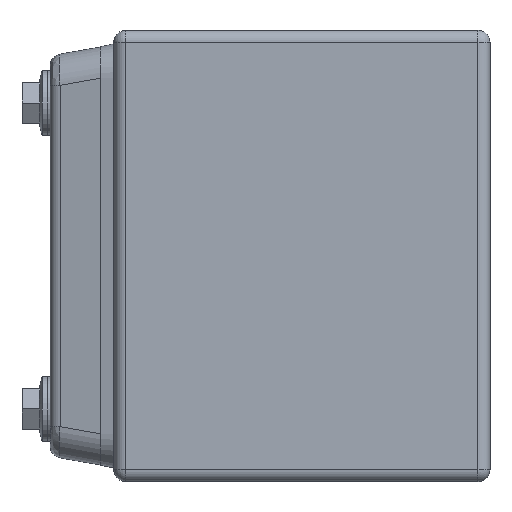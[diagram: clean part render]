
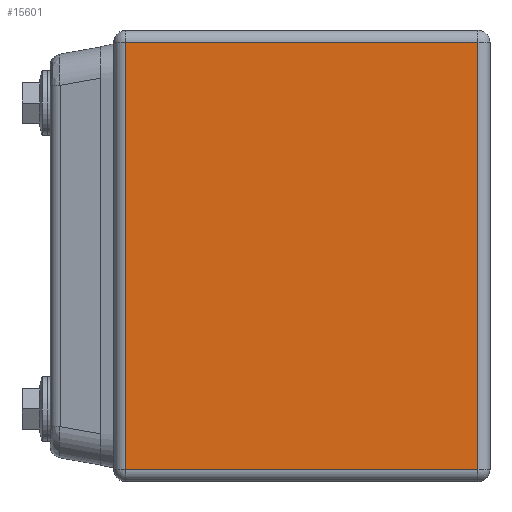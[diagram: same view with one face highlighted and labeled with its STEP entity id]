
A CAD part, left-side view. The second image highlights one B-rep face of the part: STEP entity #15601.
In plain terms, the highlighted planar face has unit normal (-1, 0, 0).
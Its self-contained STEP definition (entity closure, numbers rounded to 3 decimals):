
#70 = CARTESIAN_POINT ( 'NONE',  ( -70., 75., 42.6 ) ) ;
#138 = EDGE_CURVE ( 'NONE', #15541, #5689, #10000, .T. ) ;
#1147 = VECTOR ( 'NONE', #7212, 1000. ) ;
#1219 = CARTESIAN_POINT ( 'NONE',  ( -70., 2.4, 45. ) ) ;
#1397 = EDGE_CURVE ( 'NONE', #2568, #15541, #12304, .T. ) ;
#1472 = CARTESIAN_POINT ( 'NONE',  ( -70., 75., 45. ) ) ;
#1590 = ORIENTED_EDGE ( 'NONE', *, *, #138, .T. ) ;
#1667 = ORIENTED_EDGE ( 'NONE', *, *, #1397, .T. ) ;
#1683 = AXIS2_PLACEMENT_3D ( 'NONE', #1472, #11036, #14955 ) ;
#2568 = VERTEX_POINT ( 'NONE', #10784 ) ;
#3510 = EDGE_CURVE ( 'NONE', #7557, #2568, #4790, .T. ) ;
#4790 = LINE ( 'NONE', #1219, #15221 ) ;
#4945 = CARTESIAN_POINT ( 'NONE',  ( -70., 2.4, -42.6 ) ) ;
#5130 = ORIENTED_EDGE ( 'NONE', *, *, #3510, .T. ) ;
#5689 = VERTEX_POINT ( 'NONE', #10353 ) ;
#6326 = EDGE_CURVE ( 'NONE', #5689, #7557, #13055, .T. ) ;
#6595 = VECTOR ( 'NONE', #9953, 1000. ) ;
#7152 = ORIENTED_EDGE ( 'NONE', *, *, #6326, .T. ) ;
#7212 = DIRECTION ( 'NONE',  ( 0., 0., -1. ) ) ;
#7367 = PLANE ( 'NONE',  #1683 ) ;
#7447 = FACE_OUTER_BOUND ( 'NONE', #14062, .T. ) ;
#7557 = VERTEX_POINT ( 'NONE', #4945 ) ;
#7603 = DIRECTION ( 'NONE',  ( 0., 0., 1. ) ) ;
#9953 = DIRECTION ( 'NONE',  ( 0., 1., 0. ) ) ;
#10000 = LINE ( 'NONE', #13416, #1147 ) ;
#10353 = CARTESIAN_POINT ( 'NONE',  ( -70., 72.6, -42.6 ) ) ;
#10622 = DIRECTION ( 'NONE',  ( 0., -1., 0. ) ) ;
#10784 = CARTESIAN_POINT ( 'NONE',  ( -70., 2.4, 42.6 ) ) ;
#11036 = DIRECTION ( 'NONE',  ( -1., 0., 0. ) ) ;
#11657 = VECTOR ( 'NONE', #10622, 1000. ) ;
#12304 = LINE ( 'NONE', #70, #6595 ) ;
#12825 = CARTESIAN_POINT ( 'NONE',  ( -70., 75., -42.6 ) ) ;
#12846 = CARTESIAN_POINT ( 'NONE',  ( -70., 72.6, 42.6 ) ) ;
#13055 = LINE ( 'NONE', #12825, #11657 ) ;
#13416 = CARTESIAN_POINT ( 'NONE',  ( -70., 72.6, -45. ) ) ;
#14062 = EDGE_LOOP ( 'NONE', ( #1590, #7152, #5130, #1667 ) ) ;
#14955 = DIRECTION ( 'NONE',  ( 0., 0., 1. ) ) ;
#15221 = VECTOR ( 'NONE', #7603, 1000. ) ;
#15541 = VERTEX_POINT ( 'NONE', #12846 ) ;
#15601 = ADVANCED_FACE ( 'NONE', ( #7447 ), #7367, .T. ) ;
